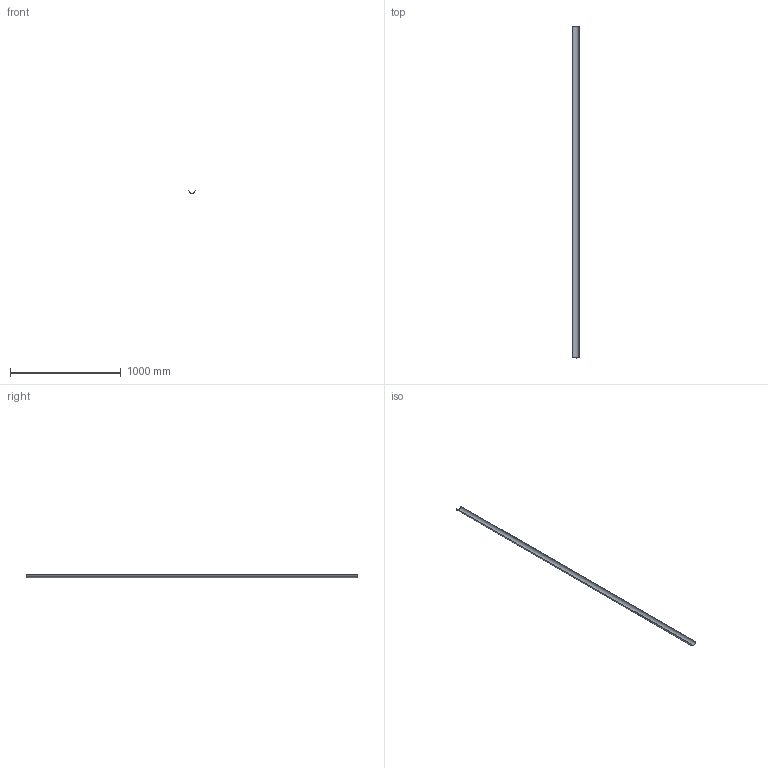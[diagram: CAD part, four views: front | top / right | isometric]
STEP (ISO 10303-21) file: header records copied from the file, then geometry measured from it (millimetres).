
FILE_DESCRIPTION(/* description */ (''),/* implementation_level */ '2;1');
FILE_NAME(/* name */ 'Z:\Geberit\Export\NewStep\363850.stp',/* time_stamp */ '2014-04-01T23:14:04+02:00',/* author */ ('bruh'),/* organization */ (''),/* preprocessor_version */ 'ST-DEVELOPER v15.2',/* originating_system */ 'Autodesk Inventor 2014',/* authorisation */ '');
FILE_SCHEMA (('AUTOMOTIVE_DESIGN { 1 0 10303 214 3 1 1 }'));
Length unit declared in the file: millimetre
Products named in the file (1): 363850
Bounding box: 57.5 x 3000 x 28.75 mm (x, y, z)
Volume: 200571.1 mm3; surface area: 539489.9 mm2
Topology: 1 solids, 1 shells, 6 faces, 12 edges, 8 vertices
Faces by surface type: plane 4, cylinder 2
Entity records: 187 total; most frequent: DIRECTION 30, CARTESIAN_POINT 27, ORIENTED_EDGE 24, EDGE_CURVE 12, AXIS2_PLACEMENT_3D 11, LINE 8, VECTOR 8, VERTEX_POINT 8
